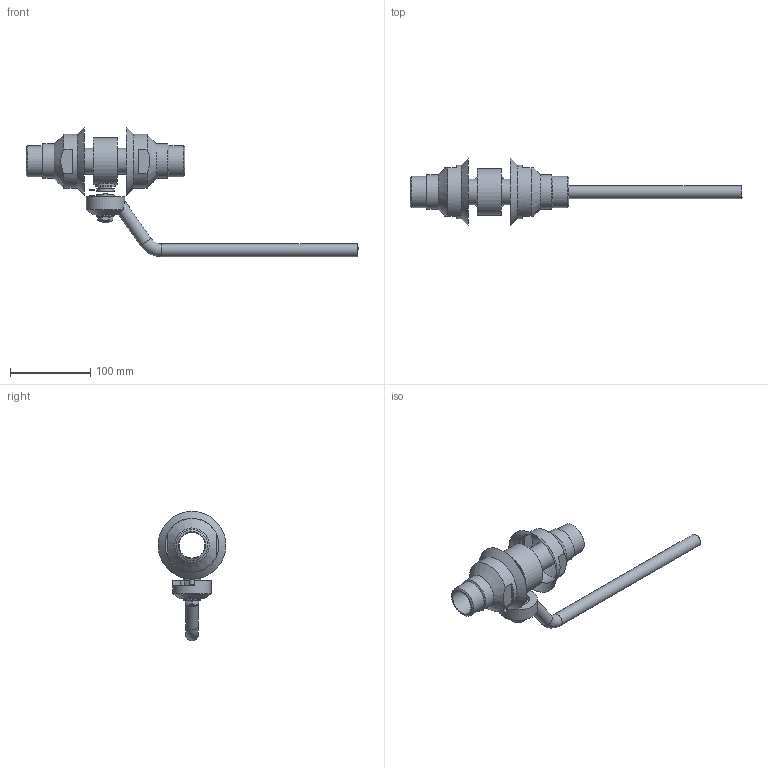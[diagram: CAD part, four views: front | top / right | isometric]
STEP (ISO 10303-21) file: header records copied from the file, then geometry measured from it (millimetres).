
FILE_DESCRIPTION(('STEP AP203'), '1');
FILE_NAME('ZARDP 032.016.40.P.stp', '2013-12-06T06:18:07', ('Øèøêî'), ('Ýíåðïðåä ßðäîñ'), 'ASCON STEP Converter 1.3', 'Kompas 3D', '');
FILE_SCHEMA(('CONFIG_CONTROL_DESIGN','SUPPORT_RESOURCE_SCHEMA'));
Length unit declared in the file: millimetre
Products named in the file (1): 62
Bounding box: 414.01 x 84.5 x 161.25 mm (x, y, z)
Surface area: 95310.3 mm2
Topology: 6 solids, 7 shells, 161 faces, 361 edges, 226 vertices
Faces by surface type: plane 80, cylinder 50, cone 23, torus 8
Full cylindrical faces by diameter (mm): 6 x2, 10 x2, 16 x3, 16.1 x1, 21.8 x1, 22 x2, 24.3 x1, 24.5 x1, 32 x2, 39 x2, 43 x2, 48 x1, 58.4 x1, 67 x2, 84.5 x1
Entity records: 6018 total; most frequent: CARTESIAN_POINT 2314, DIRECTION 781, ORIENTED_EDGE 720, EDGE_CURVE 361, AXIS2_PLACEMENT_3D 305, VERTEX_POINT 226, EDGE_LOOP 180, LINE 171
